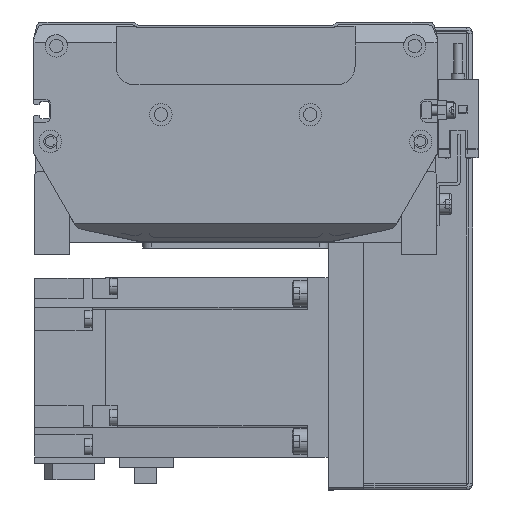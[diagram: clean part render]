
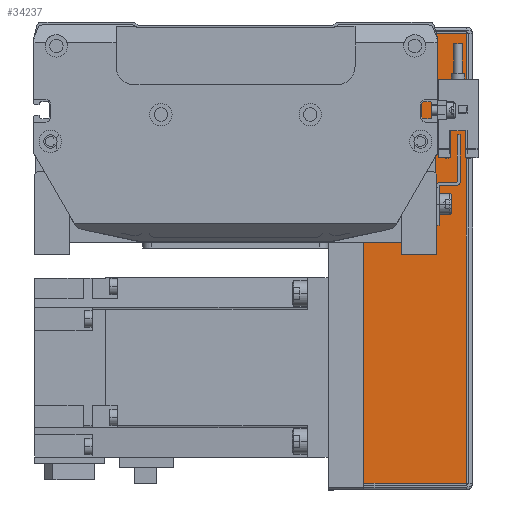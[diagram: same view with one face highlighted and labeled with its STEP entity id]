
A CAD part, front view. The second image highlights one B-rep face of the part: STEP entity #34237.
In plain terms, the highlighted planar face has unit normal (0, -1, 0).
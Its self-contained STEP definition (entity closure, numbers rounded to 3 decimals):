
#582 = EDGE_CURVE ( 'NONE', #17702, #38507, #22444, .T. ) ;
#2196 = DIRECTION ( 'NONE',  ( 1., 0., 0. ) ) ;
#4103 = DIRECTION ( 'NONE',  ( 1., 0., 0. ) ) ;
#5102 = ORIENTED_EDGE ( 'NONE', *, *, #25319, .F. ) ;
#6954 = CARTESIAN_POINT ( 'NONE',  ( -162.166, -37., 0. ) ) ;
#7501 = LINE ( 'NONE', #27003, #13061 ) ;
#7557 = DIRECTION ( 'NONE',  ( 0., 0., -1. ) ) ;
#8744 = VERTEX_POINT ( 'NONE', #37274 ) ;
#9272 = VECTOR ( 'NONE', #4103, 1000. ) ;
#9566 = DIRECTION ( 'NONE',  ( 0., 0., -1. ) ) ;
#11306 = CARTESIAN_POINT ( 'NONE',  ( 115.793, -37., 0. ) ) ;
#11894 = VECTOR ( 'NONE', #2196, 1000. ) ;
#13061 = VECTOR ( 'NONE', #7557, 1000. ) ;
#13801 = CARTESIAN_POINT ( 'NONE',  ( -162.166, -37., 36.5 ) ) ;
#16079 = CARTESIAN_POINT ( 'NONE',  ( 115.793, -37., 35. ) ) ;
#17610 = ORIENTED_EDGE ( 'NONE', *, *, #582, .T. ) ;
#17702 = VERTEX_POINT ( 'NONE', #33484 ) ;
#17831 = ORIENTED_EDGE ( 'NONE', *, *, #20079, .F. ) ;
#17953 = FACE_OUTER_BOUND ( 'NONE', #28856, .T. ) ;
#20079 = EDGE_CURVE ( 'NONE', #8744, #38507, #41580, .T. ) ;
#22072 = LINE ( 'NONE', #28056, #11894 ) ;
#22444 = LINE ( 'NONE', #6954, #9272 ) ;
#23150 = DIRECTION ( 'NONE',  ( 0., 0., 1. ) ) ;
#25319 = EDGE_CURVE ( 'NONE', #35009, #8744, #22072, .T. ) ;
#27003 = CARTESIAN_POINT ( 'NONE',  ( -34.793, -37., 36.5 ) ) ;
#28056 = CARTESIAN_POINT ( 'NONE',  ( 118., -37., 34.263 ) ) ;
#28856 = EDGE_LOOP ( 'NONE', ( #17831, #5102, #37632, #17610 ) ) ;
#32877 = VECTOR ( 'NONE', #9566, 1000. ) ;
#33302 = PLANE ( 'NONE',  #37475 ) ;
#33484 = CARTESIAN_POINT ( 'NONE',  ( -34.793, -37., 0. ) ) ;
#34237 = ADVANCED_FACE ( 'NONE', ( #17953 ), #33302, .F. ) ;
#35009 = VERTEX_POINT ( 'NONE', #37263 ) ;
#36609 = DIRECTION ( 'NONE',  ( 0., 1., 0. ) ) ;
#37263 = CARTESIAN_POINT ( 'NONE',  ( -34.793, -37., 34.263 ) ) ;
#37274 = CARTESIAN_POINT ( 'NONE',  ( 115.793, -37., 34.263 ) ) ;
#37475 = AXIS2_PLACEMENT_3D ( 'NONE', #13801, #36609, #23150 ) ;
#37632 = ORIENTED_EDGE ( 'NONE', *, *, #38103, .T. ) ;
#38103 = EDGE_CURVE ( 'NONE', #35009, #17702, #7501, .T. ) ;
#38507 = VERTEX_POINT ( 'NONE', #11306 ) ;
#41580 = LINE ( 'NONE', #16079, #32877 ) ;
